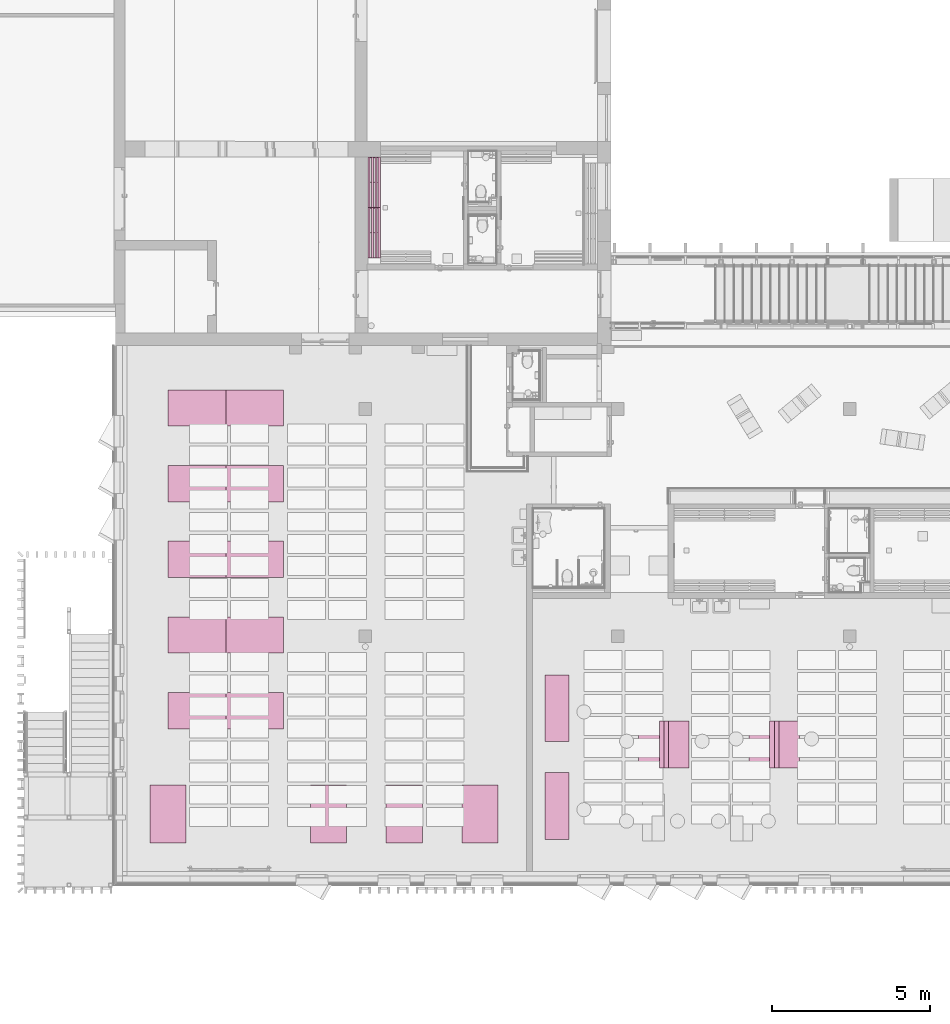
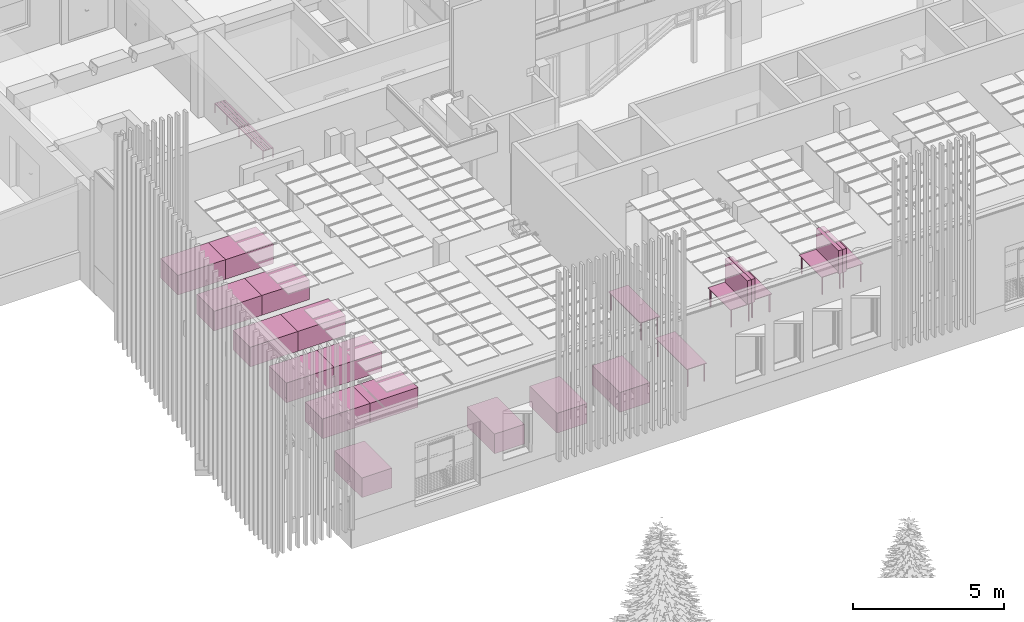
# One storey, part 270 of 301: 26 furnishings.
"""IFC2X3 building model written with IfcOpenShell, lengths in millimetres."""

from ifc_helpers import new_model, entity, si_unit, converted_unit, derived_unit, money_unit, direction, frame, origin_with_axes, place, context, subcontext, project, spatial, faceted_brep, source, transform, mapped, type_object, element, save


model = new_model("IFC2X3")

# Units and contexts
model_context = context("Model", 3, precision=0.01, world=origin_with_axes(), true_north=direction((0.0, 1.0)))
body_context = subcontext(model_context, "Body", "Model", "MODEL_VIEW")
ifc_project = project(units=[si_unit("LENGTHUNIT", "METRE", prefix="MILLI"), si_unit("AREAUNIT", "SQUARE_METRE"), si_unit("VOLUMEUNIT", "CUBIC_METRE"), converted_unit("PLANEANGLEUNIT", "DEGREE", entity("IfcPlaneAngleMeasure", 0.0174532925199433), si_unit("PLANEANGLEUNIT", "RADIAN"), dimensions=[0, 0, 0, 0, 0, 0, 0]), money_unit("EUR"), converted_unit("TIMEUNIT", "Year", entity("IfcTimeMeasure", 31557600.0), si_unit("TIMEUNIT", "SECOND"), dimensions=[0, 0, 1, 0, 0, 0, 0]), si_unit("MASSUNIT", "GRAM", prefix="KILO"), si_unit("THERMODYNAMICTEMPERATUREUNIT", "DEGREE_CELSIUS"), si_unit("LUMINOUSINTENSITYUNIT", "LUMEN"), si_unit("ENERGYUNIT", "JOULE", prefix="MEGA"), derived_unit("THERMALCONDUCTANCEUNIT", [(si_unit("POWERUNIT", "WATT"), 1), (si_unit("LENGTHUNIT", "METRE"), -1), (si_unit("THERMODYNAMICTEMPERATUREUNIT", "KELVIN"), -1)]), derived_unit("SPECIFICHEATCAPACITYUNIT", [(si_unit("ENERGYUNIT", "JOULE"), 1), (si_unit("MASSUNIT", "GRAM", prefix="KILO"), -1), (si_unit("THERMODYNAMICTEMPERATUREUNIT", "KELVIN"), -1)]), derived_unit("MASSDENSITYUNIT", [(si_unit("MASSUNIT", "GRAM", prefix="KILO"), 1), (si_unit("VOLUMEUNIT", "CUBIC_METRE"), -1)])], contexts=[model_context])

# Site, building, storey
site_placement = place(None, frame((0.0, 0.0, 8650.0), z_axis=(0.0, 0.0, 1.0), x_axis=(1.0, 0.0, 0.0)))
site = spatial("IfcSite", under=ifc_project, at=site_placement, Name="43301:001:0844", CompositionType="ELEMENT")
building_placement = place(site_placement, origin_with_axes())
building = spatial("IfcBuilding", under=site, at=building_placement, Name="Kuressaare Ametikooli tuulikute mehaanikute õppekorpus", CompositionType="ELEMENT")
storey_placement = place(building_placement, origin_with_axes())
storey = spatial("IfcBuildingStorey", under=building, at=storey_placement, Name="1.korrus", CompositionType="ELEMENT", Elevation=0.0)

# Furnishings
furniture_type_1 = type_object("IfcFurnitureType", Name="Bench 27", AssemblyPlace="NOTDEFINED")
shared_shape_1 = source(origin_with_axes(), body_context, "Body", "Brep", [
    faceted_brep([(20.0, 0.0, 0.0), (0.0, 0.0, 0.0), (0.0, 20.0, 0.0), (20.0, 20.0, 0.0), (20.0, 0.0, 385.0), (0.0, 0.0, 385.0), (0.0, 20.0, 385.0), (20.0, 20.0, 385.0)], [[[0, 1, 2, 3]], [[1, 0, 4, 5]], [[2, 1, 5, 6]], [[3, 2, 6, 7]], [[0, 3, 7, 4]], [[5, 4, 7, 6]]]),
    faceted_brep([(20.0, 380.0, 0.0), (0.0, 380.0, 0.0), (0.0, 400.0, 0.0), (20.0, 400.0, 0.0), (20.0, 380.0, 385.0), (0.0, 380.0, 385.0), (0.0, 400.0, 385.0), (20.0, 400.0, 385.0)], [[[0, 1, 2, 3]], [[1, 0, 4, 5]], [[2, 1, 5, 6]], [[3, 2, 6, 7]], [[0, 3, 7, 4]], [[5, 4, 7, 6]]]),
    faceted_brep([(1600.000000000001, 0.0, 0.0), (1580.000000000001, 0.0, 0.0), (1580.000000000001, 20.0, 0.0), (1600.000000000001, 20.0, 0.0), (1600.000000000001, 0.0, 385.0), (1580.000000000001, 0.0, 385.0), (1580.000000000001, 20.0, 385.0), (1600.000000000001, 20.0, 385.0)], [[[0, 1, 2, 3]], [[1, 0, 4, 5]], [[2, 1, 5, 6]], [[3, 2, 6, 7]], [[0, 3, 7, 4]], [[5, 4, 7, 6]]]),
    faceted_brep([(1600.000000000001, 380.0, 0.0), (1580.000000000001, 380.0, 0.0), (1580.000000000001, 400.0, 0.0), (1600.000000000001, 400.0, 0.0), (1600.000000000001, 380.0, 385.0), (1580.000000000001, 380.0, 385.0), (1580.000000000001, 400.0, 385.0), (1600.000000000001, 400.0, 385.0)], [[[0, 1, 2, 3]], [[1, 0, 4, 5]], [[2, 1, 5, 6]], [[3, 2, 6, 7]], [[0, 3, 7, 4]], [[5, 4, 7, 6]]]),
    faceted_brep([(810.0000000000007, 0.0, 0.0), (790.0000000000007, 0.0, 0.0), (790.0000000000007, 20.0, 0.0), (810.0000000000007, 20.0, 0.0), (810.0000000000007, 0.0, 385.0), (790.0000000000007, 0.0, 385.0), (790.0000000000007, 20.0, 385.0), (810.0000000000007, 20.0, 385.0)], [[[0, 1, 2, 3]], [[1, 0, 4, 5]], [[2, 1, 5, 6]], [[3, 2, 6, 7]], [[0, 3, 7, 4]], [[5, 4, 7, 6]]]),
    faceted_brep([(810.0000000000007, 380.0, 0.0), (790.0000000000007, 380.0, 0.0), (790.0000000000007, 400.0, 0.0), (810.0000000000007, 400.0, 0.0), (810.0000000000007, 380.0, 385.0), (790.0000000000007, 380.0, 385.0), (790.0000000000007, 400.0, 385.0), (810.0000000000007, 400.0, 385.0)], [[[0, 1, 2, 3]], [[1, 0, 4, 5]], [[2, 1, 5, 6]], [[3, 2, 6, 7]], [[0, 3, 7, 4]], [[5, 4, 7, 6]]]),
    faceted_brep([(790.0000000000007, 0.0, 365.0000000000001), (20.0, 0.0, 365.0000000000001), (20.0, 20.0, 365.0000000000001), (790.0000000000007, 20.0, 365.0000000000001), (790.0000000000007, 0.0, 385.0000000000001), (20.0, 0.0, 385.0000000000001), (20.0, 20.0, 385.0000000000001), (790.0000000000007, 20.0, 385.0000000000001)], [[[0, 1, 2, 3]], [[1, 0, 4, 5]], [[2, 1, 5, 6]], [[3, 2, 6, 7]], [[0, 3, 7, 4]], [[5, 4, 7, 6]]]),
    faceted_brep([(1580.000000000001, 0.0, 365.0000000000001), (810.0000000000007, 0.0, 365.0000000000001), (810.0000000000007, 20.0, 365.0000000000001), (1580.000000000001, 20.0, 365.0000000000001), (1580.000000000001, 0.0, 385.0000000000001), (810.0000000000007, 0.0, 385.0000000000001), (810.0000000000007, 20.0, 385.0000000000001), (1580.000000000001, 20.0, 385.0000000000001)], [[[0, 1, 2, 3]], [[1, 0, 4, 5]], [[2, 1, 5, 6]], [[3, 2, 6, 7]], [[0, 3, 7, 4]], [[5, 4, 7, 6]]]),
    faceted_brep([(790.0000000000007, 380.0, 365.0000000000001), (20.0, 380.0, 365.0000000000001), (20.0, 400.0, 365.0000000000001), (790.0000000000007, 400.0, 365.0000000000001), (790.0000000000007, 380.0, 385.0000000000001), (20.0, 380.0, 385.0000000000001), (20.0, 400.0, 385.0000000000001), (790.0000000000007, 400.0, 385.0000000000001)], [[[0, 1, 2, 3]], [[1, 0, 4, 5]], [[2, 1, 5, 6]], [[3, 2, 6, 7]], [[0, 3, 7, 4]], [[5, 4, 7, 6]]]),
    faceted_brep([(1580.000000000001, 380.0, 365.0000000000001), (810.0000000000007, 380.0, 365.0000000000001), (810.0000000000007, 400.0, 365.0000000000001), (1580.000000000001, 400.0, 365.0000000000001), (1580.000000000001, 380.0, 385.0000000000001), (810.0000000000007, 380.0, 385.0000000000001), (810.0000000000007, 400.0, 385.0000000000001), (1580.000000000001, 400.0, 385.0000000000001)], [[[0, 1, 2, 3]], [[1, 0, 4, 5]], [[2, 1, 5, 6]], [[3, 2, 6, 7]], [[0, 3, 7, 4]], [[5, 4, 7, 6]]]),
    faceted_brep([(20.0, 20.0, 365.0000000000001), (0.0, 20.0, 365.0000000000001), (0.0, 380.0000000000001, 365.0000000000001), (20.0, 380.0000000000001, 365.0000000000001), (20.0, 20.0, 385.0000000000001), (0.0, 20.0, 385.0000000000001), (0.0, 380.0000000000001, 385.0000000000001), (20.0, 380.0000000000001, 385.0000000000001)], [[[0, 1, 2, 3]], [[1, 0, 4, 5]], [[2, 1, 5, 6]], [[3, 2, 6, 7]], [[0, 3, 7, 4]], [[5, 4, 7, 6]]]),
    faceted_brep([(810.0000000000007, 20.0, 365.0000000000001), (790.0000000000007, 20.0, 365.0000000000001), (790.0000000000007, 380.0000000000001, 365.0000000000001), (810.0000000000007, 380.0000000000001, 365.0000000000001), (810.0000000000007, 20.0, 385.0000000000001), (790.0000000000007, 20.0, 385.0000000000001), (790.0000000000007, 380.0000000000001, 385.0000000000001), (810.0000000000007, 380.0000000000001, 385.0000000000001)], [[[0, 1, 2, 3]], [[1, 0, 4, 5]], [[2, 1, 5, 6]], [[3, 2, 6, 7]], [[0, 3, 7, 4]], [[5, 4, 7, 6]]]),
    faceted_brep([(1600.000000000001, 20.0, 365.0000000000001), (1580.000000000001, 20.0, 365.0000000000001), (1580.000000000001, 380.0000000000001, 365.0000000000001), (1600.000000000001, 380.0000000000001, 365.0000000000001), (1600.000000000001, 20.0, 385.0000000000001), (1580.000000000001, 20.0, 385.0000000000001), (1580.000000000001, 380.0000000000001, 385.0000000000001), (1600.000000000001, 380.0000000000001, 385.0000000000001)], [[[0, 1, 2, 3]], [[1, 0, 4, 5]], [[2, 1, 5, 6]], [[3, 2, 6, 7]], [[0, 3, 7, 4]], [[5, 4, 7, 6]]]),
    faceted_brep([(0.0, 330.0, 385.0), (1600.000000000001, 330.0, 385.0), (1600.000000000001, 330.0, 400.0), (0.0, 330.0, 400.0), (0.0, 400.0, 385.0), (1600.000000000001, 400.0, 385.0), (1600.000000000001, 400.0, 400.0), (0.0, 400.0, 400.0)], [[[0, 1, 2, 3]], [[0, 4, 5, 1]], [[1, 5, 6, 2]], [[3, 2, 6, 7]], [[4, 0, 3, 7]], [[5, 4, 7, 6]]]),
    faceted_brep([(1600.000000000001, 0.0, 385.0), (0.0, 0.0, 385.0), (0.0, 70.0, 385.0), (1600.000000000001, 70.0, 385.0), (1600.000000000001, 0.0, 400.0), (0.0, 0.0, 400.0), (0.0, 70.0, 400.0), (1600.000000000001, 70.0, 400.0)], [[[0, 1, 2, 3]], [[1, 0, 4, 5]], [[2, 1, 5, 6]], [[3, 2, 6, 7]], [[0, 3, 7, 4]], [[5, 4, 7, 6]]]),
    faceted_brep([(1600.000000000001, 110.0, 385.0), (0.0, 110.0, 385.0), (0.0, 180.0, 385.0), (1600.000000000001, 180.0, 385.0), (1600.000000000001, 110.0, 400.0), (0.0, 110.0, 400.0), (0.0, 180.0, 400.0), (1600.000000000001, 180.0, 400.0)], [[[0, 1, 2, 3]], [[1, 0, 4, 5]], [[2, 1, 5, 6]], [[3, 2, 6, 7]], [[0, 3, 7, 4]], [[5, 4, 7, 6]]]),
    faceted_brep([(1600.000000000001, 220.0, 385.0), (0.0, 220.0, 385.0), (0.0, 290.0000000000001, 385.0), (1600.000000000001, 290.0000000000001, 385.0), (1600.000000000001, 220.0, 400.0), (0.0, 220.0, 400.0), (0.0, 290.0000000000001, 400.0), (1600.000000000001, 290.0000000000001, 400.0)], [[[0, 1, 2, 3]], [[1, 0, 4, 5]], [[2, 1, 5, 6]], [[3, 2, 6, 7]], [[0, 3, 7, 4]], [[5, 4, 7, 6]]]),
])
for number, where, z_axis, x_axis, name in (
    (1, (95947.90134526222, 30154.84559020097, 0.0), (0.0, 0.0, 1.0), (0.0, -1.0, 0.0), "PI1"),
    (2, (95947.90113090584, 31754.84559020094, 0.0), (0.0, 0.0, 1.0), (0.0, -1.0, 0.0), "PI1"),
):
    element("IfcFurnishingElement", number, at=place(storey_placement, frame(where, z_axis=z_axis, x_axis=x_axis)), inside=storey, type_object=furniture_type_1, Name=name, context=body_context, shape_type="MappedRepresentation", body=[
        mapped(shared_shape_1, transform((0.0, 0.0, 0.0))),
    ])
furniture_type_2 = type_object("IfcFurnitureType", Name="Office Table 27", AssemblyPlace="NOTDEFINED")
shared_shape_2 = source(origin_with_axes(), body_context, "Body", "Brep", [
    faceted_brep([(0.0, 0.0, 750.0), (-2120.0, 0.0, 750.0), (-2120.0, 0.0, 725.0), (0.0, 0.0, 725.0), (0.0, 760.0, 750.0), (-2120.0, 760.0, 750.0), (-2120.0, 760.0, 725.0), (0.0, 760.0, 725.0)], [[[0, 1, 2, 3]], [[0, 4, 5, 1]], [[1, 5, 6, 2]], [[3, 2, 6, 7]], [[4, 0, 3, 7]], [[5, 4, 7, 6]]]),
    faceted_brep([(-84.99999999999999, 45.0, 0.0), (-84.99999999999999, 84.99999999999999, 0.0), (-45.0, 84.99999999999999, 0.0), (-45.0, 45.0, 0.0), (-84.99999999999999, 45.0, 725.0), (-84.99999999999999, 84.99999999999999, 725.0), (-45.0, 84.99999999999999, 725.0), (-45.0, 45.0, 725.0)], [[[0, 1, 2, 3]], [[0, 4, 5, 1]], [[1, 5, 6, 2]], [[2, 6, 7, 3]], [[3, 7, 4, 0]], [[7, 6, 5, 4]]]),
    faceted_brep([(-2075.0, 45.0, 0.0), (-2075.0, 84.99999999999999, 0.0), (-2035.0, 84.99999999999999, 0.0), (-2035.0, 45.0, 0.0), (-2075.0, 45.0, 725.0), (-2075.0, 84.99999999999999, 725.0), (-2035.0, 84.99999999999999, 725.0), (-2035.0, 45.0, 725.0)], [[[0, 1, 2, 3]], [[0, 4, 5, 1]], [[1, 5, 6, 2]], [[2, 6, 7, 3]], [[3, 7, 4, 0]], [[7, 6, 5, 4]]]),
    faceted_brep([(-2075.0, 675.0, 0.0), (-2075.0, 715.0000000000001, 0.0), (-2035.0, 715.0000000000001, 0.0), (-2035.0, 675.0, 0.0), (-2075.0, 675.0, 725.0), (-2075.0, 715.0000000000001, 725.0), (-2035.0, 715.0000000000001, 725.0), (-2035.0, 675.0, 725.0)], [[[0, 1, 2, 3]], [[0, 4, 5, 1]], [[1, 5, 6, 2]], [[2, 6, 7, 3]], [[3, 7, 4, 0]], [[7, 6, 5, 4]]]),
    faceted_brep([(-84.99999999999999, 675.0, 0.0), (-84.99999999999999, 715.0000000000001, 0.0), (-45.0, 715.0000000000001, 0.0), (-45.0, 675.0, 0.0), (-84.99999999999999, 675.0, 725.0), (-84.99999999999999, 715.0000000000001, 725.0), (-45.0, 715.0000000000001, 725.0), (-45.0, 675.0, 725.0)], [[[0, 1, 2, 3]], [[0, 4, 5, 1]], [[1, 5, 6, 2]], [[2, 6, 7, 3]], [[3, 7, 4, 0]], [[7, 6, 5, 4]]]),
])
for number, where, z_axis, x_axis, name in (
    (3, (102325.0525786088, 12248.91712444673, 0.0), (0.0, 0.0, 1.0), (0.0, 1.0, 0.0), "SET"),
    (4, (102325.0525786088, 15350.46801480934, 0.0), (0.0, 0.0, 1.0), (0.0, 1.0, 0.0), "SET"),
):
    element("IfcFurnishingElement", number, at=place(storey_placement, frame(where, z_axis=z_axis, x_axis=x_axis)), inside=storey, type_object=furniture_type_2, Name=name, context=body_context, shape_type="MappedRepresentation", body=[
        mapped(shared_shape_2, transform((0.0, 0.0, 0.0))),
    ])
shared_shape_3 = source(origin_with_axes(), body_context, "Body", "Brep", [
    faceted_brep([(0.0, 0.0, 750.0), (-1500.0, 0.0, 750.0), (-1500.0, 0.0, 725.0), (0.0, 0.0, 725.0), (0.0, 800.0, 750.0), (-1500.0, 800.0, 750.0), (-1500.0, 800.0, 725.0), (0.0, 800.0, 725.0)], [[[0, 1, 2, 3]], [[0, 4, 5, 1]], [[1, 5, 6, 2]], [[3, 2, 6, 7]], [[4, 0, 3, 7]], [[5, 4, 7, 6]]]),
    faceted_brep([(-84.99999999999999, 45.0, 0.0), (-84.99999999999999, 84.99999999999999, 0.0), (-45.0, 84.99999999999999, 0.0), (-45.0, 45.0, 0.0), (-84.99999999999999, 45.0, 725.0), (-84.99999999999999, 84.99999999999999, 725.0), (-45.0, 84.99999999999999, 725.0), (-45.0, 45.0, 725.0)], [[[0, 1, 2, 3]], [[0, 4, 5, 1]], [[1, 5, 6, 2]], [[2, 6, 7, 3]], [[3, 7, 4, 0]], [[7, 6, 5, 4]]]),
    faceted_brep([(-1455.0, 45.0, 0.0), (-1455.0, 84.99999999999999, 0.0), (-1415.0, 84.99999999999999, 0.0), (-1415.0, 45.0, 0.0), (-1455.0, 45.0, 725.0), (-1455.0, 84.99999999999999, 725.0), (-1415.0, 84.99999999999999, 725.0), (-1415.0, 45.0, 725.0)], [[[0, 1, 2, 3]], [[0, 4, 5, 1]], [[1, 5, 6, 2]], [[2, 6, 7, 3]], [[3, 7, 4, 0]], [[7, 6, 5, 4]]]),
    faceted_brep([(-1455.0, 715.0000000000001, 0.0), (-1455.0, 755.0000000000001, 0.0), (-1415.0, 755.0000000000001, 0.0), (-1415.0, 715.0000000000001, 0.0), (-1455.0, 715.0000000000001, 725.0), (-1455.0, 755.0000000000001, 725.0), (-1415.0, 755.0000000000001, 725.0), (-1415.0, 715.0000000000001, 725.0)], [[[0, 1, 2, 3]], [[0, 4, 5, 1]], [[1, 5, 6, 2]], [[2, 6, 7, 3]], [[3, 7, 4, 0]], [[7, 6, 5, 4]]]),
    faceted_brep([(-84.99999999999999, 715.0000000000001, 0.0), (-84.99999999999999, 755.0000000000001, 0.0), (-45.0, 755.0000000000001, 0.0), (-45.0, 715.0000000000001, 0.0), (-84.99999999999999, 715.0000000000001, 725.0), (-84.99999999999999, 755.0000000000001, 725.0), (-45.0, 755.0000000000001, 725.0), (-45.0, 715.0000000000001, 725.0)], [[[0, 1, 2, 3]], [[0, 4, 5, 1]], [[1, 5, 6, 2]], [[2, 6, 7, 3]], [[3, 7, 4, 0]], [[7, 6, 5, 4]]]),
])
for number, where, z_axis, x_axis in (
    (5, (104533.7926083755, 12389.27178213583, 0.0), (0.0, 0.0, 1.0), (0.0, -1.0, 0.0)),
    (6, (108032.882404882, 12389.27178213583, 100.0), (0.0, 0.0, 1.0), (0.0, -1.0, 0.0)),
):
    element("IfcFurnishingElement", number, at=place(storey_placement, frame(where, z_axis=z_axis, x_axis=x_axis)), inside=storey, type_object=furniture_type_2, Name="SME", context=body_context, shape_type="MappedRepresentation", body=[
        mapped(shared_shape_3, transform((0.0, 0.0, 0.0))),
    ])
furniture_type_3 = type_object("IfcFurnitureType", Name="Cube 27", AssemblyPlace="NOTDEFINED")
shared_shape_4 = source(origin_with_axes(), body_context, "Body", "Brep", [
    faceted_brep([(-1500.0, 0.0, 0.0), (-1500.0, 150.0, 0.0), (0.0, 150.0, 0.0), (0.0, 0.0, 0.0), (-1500.0, 0.0, 950.0), (-1500.0, 150.0, 950.0), (0.0, 150.0, 950.0), (0.0, 0.0, 950.0)], [[[0, 1, 2, 3]], [[0, 4, 5, 1]], [[1, 5, 6, 2]], [[2, 6, 7, 3]], [[3, 7, 4, 0]], [[7, 6, 5, 4]]]),
])
for number, where, z_axis, x_axis, name in (
    (7, (105183.7926083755, 12389.27178213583, 750.0), (0.0, 0.0, 1.0), (0.0, -1.0, 0.0), "x"),
    (8, (108682.8824048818, 12389.27178213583, 750.0), (0.0, 0.0, 1.0), (0.0, -1.0, 0.0), "x"),
):
    element("IfcFurnishingElement", number, at=place(storey_placement, frame(where, z_axis=z_axis, x_axis=x_axis)), inside=storey, type_object=furniture_type_3, Name=name, context=body_context, shape_type="MappedRepresentation", body=[
        mapped(shared_shape_4, transform((0.0, 0.0, 0.0))),
    ])
shared_shape_5 = source(origin_with_axes(), body_context, "Body", "Brep", [
    faceted_brep([(1500.0, 0.0, 0.0), (0.0, 0.0, 0.0), (0.0, 150.0, 0.0), (1500.0, 150.0, 0.0), (1500.0, 0.0, 950.0), (0.0, 0.0, 950.0), (0.0, 150.0, 950.0), (1500.0, 150.0, 950.0)], [[[0, 1, 2, 3]], [[1, 0, 4, 5]], [[2, 1, 5, 6]], [[3, 2, 6, 7]], [[0, 3, 7, 4]], [[5, 4, 7, 6]]]),
])
for number, where, z_axis, x_axis, name in (
    (9, (105483.7926083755, 12389.27178213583, 750.0), (0.0, 0.0, 1.0), (0.0, 1.0, 0.0), "x"),
    (10, (108982.8824048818, 12389.27178213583, 750.0), (0.0, 0.0, 1.0), (0.0, 1.0, 0.0), "x"),
):
    element("IfcFurnishingElement", number, at=place(storey_placement, frame(where, z_axis=z_axis, x_axis=x_axis)), inside=storey, type_object=furniture_type_3, Name=name, context=body_context, shape_type="MappedRepresentation", body=[
        mapped(shared_shape_5, transform((0.0, 0.0, 0.0))),
    ])
shared_shape_6 = source(origin_with_axes(), body_context, "Body", "Brep", [
    faceted_brep([(0.0, 0.0, 750.0), (0.0, 0.0, 725.0), (1500.0, 0.0, 725.0), (1500.0, 0.0, 750.0), (0.0, 800.0, 750.0), (0.0, 800.0, 725.0), (1500.0, 800.0, 725.0), (1500.0, 800.0, 750.0)], [[[0, 1, 2, 3]], [[4, 5, 1, 0]], [[1, 5, 6, 2]], [[3, 2, 6, 7]], [[0, 3, 7, 4]], [[7, 6, 5, 4]]]),
    faceted_brep([(84.99999999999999, 45.0, 0.0), (45.0, 45.0, 0.0), (45.0, 84.99999999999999, 0.0), (84.99999999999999, 84.99999999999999, 0.0), (84.99999999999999, 45.0, 725.0), (45.0, 45.0, 725.0), (45.0, 84.99999999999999, 725.0), (84.99999999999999, 84.99999999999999, 725.0)], [[[0, 1, 2, 3]], [[1, 0, 4, 5]], [[2, 1, 5, 6]], [[3, 2, 6, 7]], [[0, 3, 7, 4]], [[5, 4, 7, 6]]]),
    faceted_brep([(1455.0, 45.0, 0.0), (1415.0, 45.0, 0.0), (1415.0, 84.99999999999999, 0.0), (1455.0, 84.99999999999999, 0.0), (1455.0, 45.0, 725.0), (1415.0, 45.0, 725.0), (1415.0, 84.99999999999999, 725.0), (1455.0, 84.99999999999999, 725.0)], [[[0, 1, 2, 3]], [[1, 0, 4, 5]], [[2, 1, 5, 6]], [[3, 2, 6, 7]], [[0, 3, 7, 4]], [[5, 4, 7, 6]]]),
    faceted_brep([(1455.0, 715.0000000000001, 0.0), (1415.0, 715.0000000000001, 0.0), (1415.0, 755.0000000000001, 0.0), (1455.0, 755.0000000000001, 0.0), (1455.0, 715.0000000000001, 725.0), (1415.0, 715.0000000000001, 725.0), (1415.0, 755.0000000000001, 725.0), (1455.0, 755.0000000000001, 725.0)], [[[0, 1, 2, 3]], [[1, 0, 4, 5]], [[2, 1, 5, 6]], [[3, 2, 6, 7]], [[0, 3, 7, 4]], [[5, 4, 7, 6]]]),
    faceted_brep([(84.99999999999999, 715.0000000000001, 0.0), (45.0, 715.0000000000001, 0.0), (45.0, 755.0000000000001, 0.0), (84.99999999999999, 755.0000000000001, 0.0), (84.99999999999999, 715.0000000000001, 725.0), (45.0, 715.0000000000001, 725.0), (45.0, 755.0000000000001, 725.0), (84.99999999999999, 755.0000000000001, 725.0)], [[[0, 1, 2, 3]], [[1, 0, 4, 5]], [[2, 1, 5, 6]], [[3, 2, 6, 7]], [[0, 3, 7, 4]], [[5, 4, 7, 6]]]),
])
for number, where, z_axis, x_axis in (
    (11, (106133.7926083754, 12389.27178213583, 100.0), (0.0, 0.0, 1.0), (0.0, 1.0, 0.0)),
    (12, (109632.8824048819, 12389.27178213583, 100.0), (0.0, 0.0, 1.0), (0.0, 1.0, 0.0)),
):
    element("IfcFurnishingElement", number, at=place(storey_placement, frame(where, z_axis=z_axis, x_axis=x_axis)), inside=storey, type_object=furniture_type_2, Name="SME", context=body_context, shape_type="MappedRepresentation", body=[
        mapped(shared_shape_6, transform((0.0, 0.0, 0.0))),
    ])
shared_shape_7 = source(origin_with_axes(), body_context, "Body", "Brep", [
    faceted_brep([(1830.0, 0.0, 0.0), (0.0, 0.0, 0.0), (0.0, 1150.0, 0.0), (1830.0, 1150.0, 0.0), (1830.0, 0.0, 800.0), (0.0, 0.0, 800.0), (0.0, 1150.0, 800.0), (1830.0, 1150.0, 800.0)], [[[0, 1, 2, 3]], [[1, 0, 4, 5]], [[2, 1, 5, 6]], [[3, 2, 6, 7]], [[0, 3, 7, 4]], [[5, 4, 7, 6]]]),
])
for number, where, z_axis, x_axis, name in (
    (13, (89618.22657273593, 23233.06892395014, 0.0), (0.0, 0.0, 1.0), (1.0, 0.0, 0.0), "TP1"),
    (14, (89618.22657273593, 20833.06892395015, 0.0), (0.0, 0.0, 1.0), (1.0, 0.0, 0.0), "TP1"),
    (15, (89618.22657273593, 16033.06892395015, 0.0), (0.0, 0.0, 1.0), (1.0, 0.0, 0.0), "TP1"),
    (16, (89618.22657273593, 13633.06892395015, 0.0), (0.0, 0.0, 1.0), (1.0, 0.0, 0.0), "TP1"),
    (17, (91448.22657273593, 23233.06892395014, 0.0), (0.0, 0.0, 1.0), (1.0, 0.0, 0.0), "TP1"),
    (18, (91448.22657273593, 20833.06892395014, 0.0), (0.0, 0.0, 1.0), (1.0, 0.0, 0.0), "TP1"),
    (19, (89618.22657273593, 18433.06892395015, 0.0), (0.0, 0.0, 1.0), (1.0, 0.0, 0.0), "TP1"),
    (20, (91448.22657273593, 18433.06892395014, 0.0), (0.0, 0.0, 1.0), (1.0, 0.0, 0.0), "TP1"),
    (21, (91448.22657273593, 16033.06892395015, 0.0), (0.0, 0.0, 1.0), (1.0, 0.0, 0.0), "TP1"),
    (22, (91448.22657273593, 13633.06892395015, 0.0), (0.0, 0.0, 1.0), (1.0, 0.0, 0.0), "TP1"),
    (23, (98927.95228479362, 11853.83849054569, 0.0), (0.0, 0.0, 1.0), (0.0, -1.0, 0.0), "TP1"),
    (24, (96527.95228479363, 11853.83849054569, 0.0), (0.0, 0.0, 1.0), (0.0, -1.0, 0.0), "TP1"),
    (25, (94127.95228479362, 11853.83849054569, 0.0), (0.0, 0.0, 1.0), (0.0, -1.0, 0.0), "TP1"),
    (26, (89043.036464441, 11853.83849054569, 0.0), (0.0, 0.0, 1.0), (0.0, -1.0, 0.0), "TP1"),
):
    element("IfcFurnishingElement", number, at=place(storey_placement, frame(where, z_axis=z_axis, x_axis=x_axis)), inside=storey, type_object=furniture_type_3, Name=name, context=body_context, shape_type="MappedRepresentation", body=[
        mapped(shared_shape_7, transform((0.0, 0.0, 0.0))),
    ])

save(model, "model.ifc")
